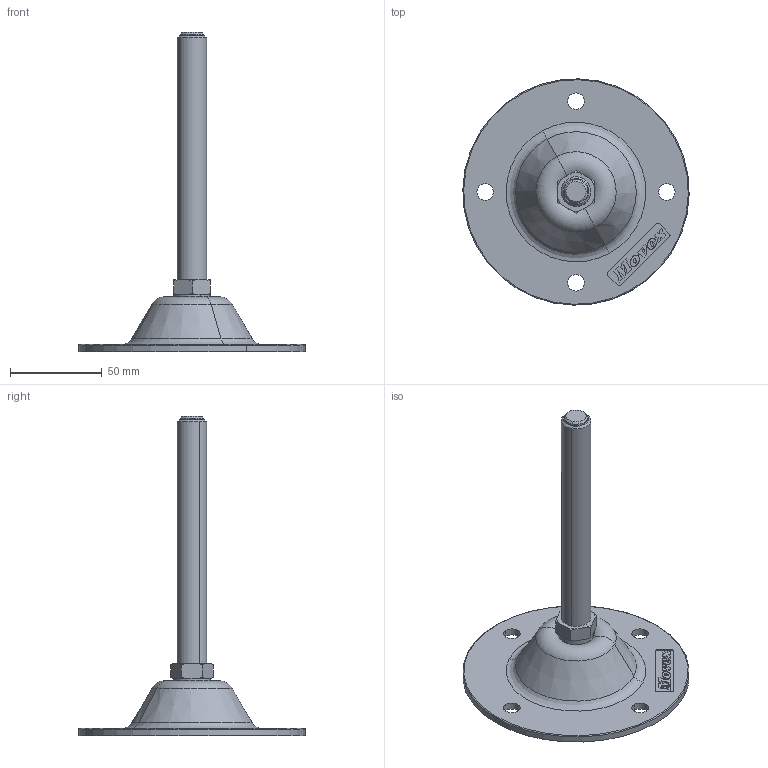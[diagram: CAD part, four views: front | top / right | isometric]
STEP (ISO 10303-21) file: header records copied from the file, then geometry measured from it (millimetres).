
FILE_DESCRIPTION(('CATIA V5 STEP Exchange'),'2;1');
FILE_NAME('X:\CODICI MOVEX\3D per clienti\Elena Finazzi\12-01-2016\P96002H_01.stp','2016-01-12T16:35:17+00:00',('none'),('none'),'Version 5-6 Release 2012','CATIA V5 STEP AP203','none');
FILE_SCHEMA(('CONFIG_CONTROL_DESIGN'));
Length unit declared in the file: millimetre
Products named in the file (1): P96002H_01
Assembly tree (4 placements, depth 2):
  P96002H_01
    #57
    #15424
    #16605
    #16774
Bounding box: 123.47 x 123.47 x 174.3 mm (x, y, z)
Volume: 88532.8 mm3; surface area: 40039 mm2
Topology: 4 solids, 4 shells, 554 faces, 1562 edges, 1026 vertices
Faces by surface type: plane 472, cylinder 32, cone 32, torus 16, revolution 2
Entity records: 17309 total; most frequent: CARTESIAN_POINT 3211, ORIENTED_EDGE 3116, DIRECTION 2508, EDGE_CURVE 1558, VECTOR 1390, LINE 1390, VERTEX_POINT 1026, AXIS2_PLACEMENT_3D 625
